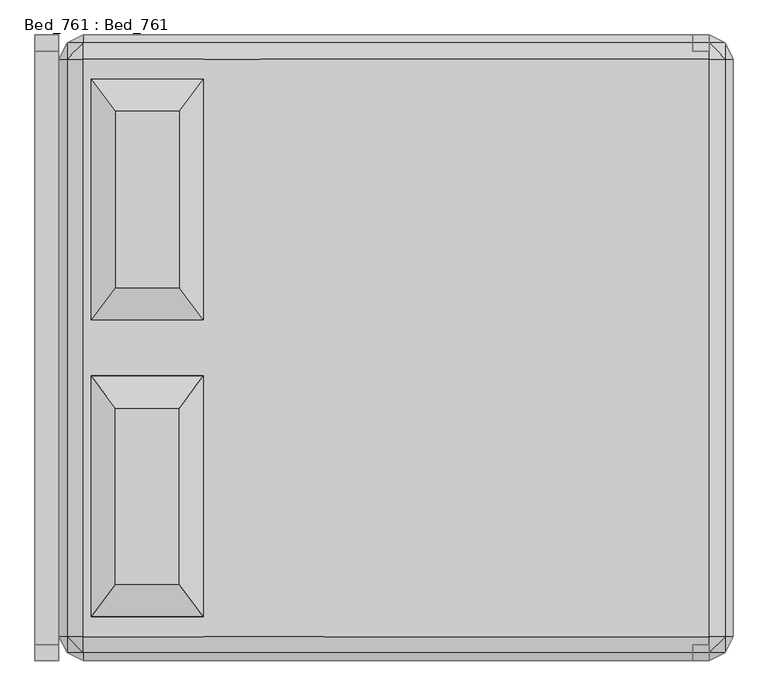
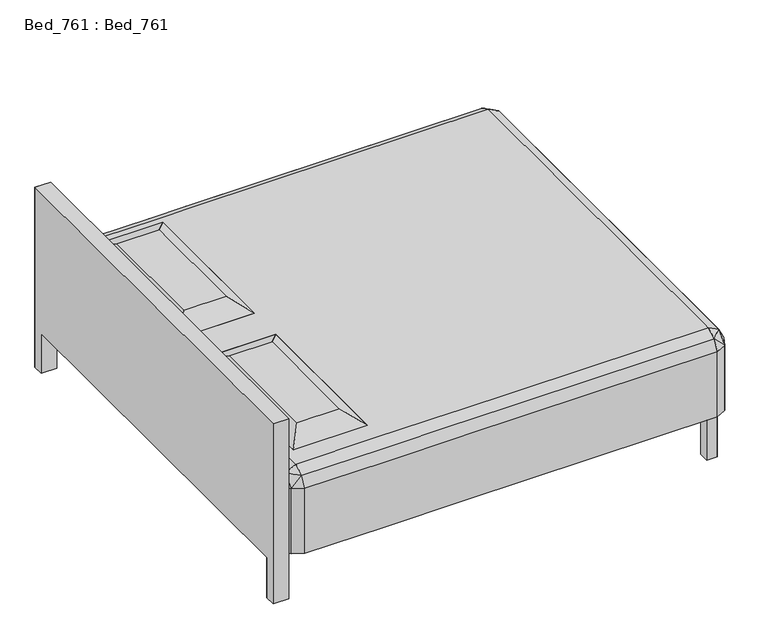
"""IFC4 building model written with IfcOpenShell, lengths in millimetres: furniture geometry, Bed_761 : Bed_761."""

from ifc_helpers import new_model, si_unit, origin, place, context, project, spatial, triangles, source, transform, mapped, element, save


def bed_761_bed_761_0b78a544(model_context):
    return source(origin(), model_context, "Body", "Tessellation", [
        triangles([(253.9999939, 825.4999758, 609.6), (253.9999939, 215.8997759, 609.6000727), (177.7999939, 139.7000121, 635.0001211), (177.7999939, 901.6999758, 634.9999758), (457.2, 825.4999758, 609.6), (533.4, 901.6999758, 634.9999758), (533.4, 139.7000121, 635.0001211), (457.2, 215.8997759, 609.6000727), (457.2, 800.099782, 685.8), (253.9999939, 800.099782, 685.8), (457.2, 241.299788, 685.8000727), (253.9999939, 241.299788, 685.8000727), (533.4, 1905.0, 609.599891), (152.4, 1905.0, 609.599891), (533.4, 76.2000091, 609.6000727), (152.4, 76.2000091, 609.6000727), (533.4, 25.4000121, 584.2000969), (152.4, 25.4000121, 584.2000969), (533.4, 7.8e-06, 533.400109), (152.4, 7.8e-06, 533.400109), (533.4, -2.11e-05, 203.2000969), (152.4, -2.11e-05, 203.2000969), (533.4, 1955.7999516, 584.1999152), (152.4, 1955.7999516, 584.1999152), (533.4, 1981.2, 533.399891), (152.4, 1981.2, 533.399891), (533.4, 1981.2, 203.1999152), (152.4, 1981.2, 203.1999152), (711.1999758, 1981.2, 203.1999152), (711.1999758, 1981.2, 533.399891), (711.1999758, 1955.7999516, 584.1999152), (711.1999758, 1905.0, 609.599891), (914.4, 25.4000121, 584.2000969), (914.4, 7.8e-06, 533.400109), (914.4, -2.11e-05, 203.2000969), (914.4, 76.2000091, 609.6000727), (2133.6, 1955.7999516, 584.1999152), (2133.6, 1905.0, 609.599891), (2159.0000484, 1930.4000484, 584.1999152), (2133.6, 1981.2, 533.399891), (2184.3999516, 1955.7999516, 533.399891), (2133.6, 1981.2, 203.1999152), (2184.3999516, 1955.7999516, 203.1999152), (2184.3999516, 1905.0, 584.1999152), (2209.8, 1905.0, 533.399891), (2209.8, 1905.0, 203.199788), (2184.3999516, 76.2000091, 584.2000969), (2133.6, 76.2000091, 609.6000727), (2159.0000484, 50.8000106, 584.2000969), (2209.8, 76.2000091, 533.400109), (2184.3999516, 25.4000098, 533.400109), (2209.8, 76.1999818, 203.1999879), (2184.3999516, 25.399978, 203.1999879), (2133.6, 25.4000121, 584.2000969), (2133.6, 7.8e-06, 533.400109), (2133.6, -2.11e-05, 203.2000969), (101.600003, 1905.0, 584.1999152), (126.999997, 1930.4000484, 584.1999152), (76.2, 1905.0, 533.399891), (101.600003, 1955.7999516, 533.399891), (76.2, 1905.0, 203.199788), (101.600003, 1955.7999516, 203.1999152), (126.999997, 50.8000106, 584.2000969), (101.600003, 25.4000098, 533.400109), (101.600003, 25.399978, 203.1999879), (101.600003, 76.2000091, 584.2000969), (76.2, 76.2000091, 533.400109), (76.2, 76.1999818, 203.1999879), (253.9999939, 1181.1, 685.8), (253.9999939, 1739.9000484, 685.7999273), (177.7999939, 1079.5000242, 634.9999758), (177.7999939, 1841.4999516, 634.9999031), (457.2, 1181.1, 685.8), (457.2, 1739.9000484, 685.7999273), (533.4, 1841.4999516, 634.9999031), (533.4, 1079.5000242, 634.9999758), (457.2, 1765.2999516, 609.5999637), (253.9999939, 1765.2999516, 609.5999637), (457.2, 1155.7000242, 609.6), (253.9999939, 1155.7000242, 609.6)], [[1, 2, 3], [3, 4, 1], [5, 6, 7], [7, 8, 5], [7, 3, 8], [2, 8, 3], [4, 6, 5], [5, 1, 4], [6, 4, 9], [10, 9, 4], [3, 7, 11], [11, 12, 3], [6, 9, 7], [11, 7, 9], [12, 11, 10], [9, 10, 11], [12, 10, 3], [4, 3, 10], [13, 14, 15], [16, 15, 14], [15, 16, 17], [18, 17, 16], [19, 20, 21], [22, 21, 20], [17, 18, 19], [20, 19, 18], [23, 24, 13], [14, 13, 24], [25, 26, 23], [24, 23, 26], [27, 28, 25], [26, 25, 28], [29, 27, 30], [25, 30, 27], [30, 25, 31], [23, 31, 25], [31, 23, 32], [13, 32, 23], [33, 17, 34], [19, 34, 17], [34, 19, 35], [21, 35, 19], [36, 15, 33], [17, 33, 15], [32, 13, 36], [15, 36, 13], [37, 38, 39], [40, 41, 42], [43, 42, 41], [40, 37, 41], [41, 37, 39], [44, 45, 41], [44, 41, 39], [41, 45, 46], [46, 43, 41], [38, 44, 39], [47, 48, 49], [50, 51, 52], [53, 52, 51], [50, 47, 51], [51, 47, 49], [54, 55, 51], [54, 51, 49], [51, 55, 56], [56, 53, 51], [48, 54, 49], [57, 14, 58], [59, 60, 61], [62, 61, 60], [59, 57, 60], [60, 57, 58], [24, 26, 60], [24, 60, 58], [60, 26, 28], [28, 62, 60], [14, 24, 58], [18, 16, 63], [20, 64, 22], [65, 22, 64], [20, 18, 64], [64, 18, 63], [66, 67, 64], [66, 64, 63], [64, 67, 68], [68, 65, 64], [16, 66, 63], [16, 14, 57], [57, 66, 16], [67, 59, 61], [61, 68, 67], [66, 57, 59], [59, 67, 66], [44, 47, 45], [50, 45, 47], [45, 50, 46], [52, 46, 50], [38, 48, 44], [47, 44, 48], [38, 32, 48], [36, 48, 32], [48, 36, 54], [33, 54, 36], [55, 34, 56], [35, 56, 34], [54, 33, 55], [34, 55, 33], [37, 31, 38], [32, 38, 31], [40, 30, 37], [31, 37, 30], [42, 29, 40], [30, 40, 29], [69, 70, 71], [72, 71, 70], [69, 73, 70], [74, 70, 73], [75, 74, 76], [73, 76, 74], [71, 76, 73], [73, 69, 71], [75, 72, 74], [70, 74, 72], [72, 75, 77], [77, 78, 72], [76, 71, 79], [80, 79, 71], [77, 75, 76], [76, 79, 77], [78, 80, 71], [71, 72, 78]], closed=False),
        triangles([(0.0, 1981.2, 914.3999273), (0.0, 0.0, 914.4000727), (76.2, 1981.2, 914.3999273), (76.2, 0.0, 914.4000727)], [[1, 2, 3], [4, 3, 2]], closed=False),
        triangles([(0.0, 4e-05, 914.4000727), (0.0, -2.22e-05, 203.2000969), (0.0, 1981.2, 914.3999273), (0.0, 1981.2, 203.1999152), (2082.8000484, 1930.4000484, 203.199788), (2082.8000484, 1930.4000484, -8.22e-05), (2082.8000484, 1981.2, 203.1999152), (2082.8000484, 1981.2, -8.66e-05), (2133.6, 1981.2, -8.66e-05), (2133.6, 1981.2, 203.1999152), (2133.6, 1930.4000484, 203.199788), (2133.6, 1930.4000484, -8.22e-05), (76.2, 1981.2, -8.66e-05), (76.2, 1981.2, 203.1999152), (76.2, 1930.4000484, 203.199788), (76.2, 1930.4000484, -8.22e-05), (0.0, 1930.4000484, 203.199788), (0.0, 1930.4000484, -8.22e-05), (0.0, 1981.2, -8.66e-05), (0.0, -4e-05, 8.66e-05), (0.0, 50.7999788, 203.1999879), (0.0, 50.7999606, 8.22e-05), (2133.6, 50.7999606, 8.22e-05), (2133.6, 50.7999788, 203.1999879), (2133.6, -2.22e-05, 203.2000969), (2133.6, -4e-05, 8.66e-05), (2082.8000484, -2.22e-05, 203.2000969), (2082.8000484, -4e-05, 8.66e-05), (2082.8000484, 50.7999788, 203.1999879), (2082.8000484, 50.7999606, 8.22e-05), (76.2, 50.7999606, 8.22e-05), (76.2, 50.7999788, 203.1999879), (76.2, -2.22e-05, 203.2000969), (76.2, -4e-05, 8.66e-05), (76.2, 1981.2, 914.3999273), (76.2, 4e-05, 914.4000727)], [[1, 2, 3], [4, 3, 2], [5, 6, 7], [8, 7, 6], [9, 10, 11], [11, 12, 9], [13, 14, 15], [15, 16, 13], [17, 18, 4], [19, 4, 18], [2, 20, 21], [22, 21, 20], [23, 24, 25], [25, 26, 23], [27, 28, 29], [30, 29, 28], [31, 32, 33], [33, 34, 31], [14, 35, 36], [36, 33, 14]], closed=False),
        triangles([(76.2, 4e-05, 914.4000727), (76.2, -2.22e-05, 203.2000969), (0.0, -2.22e-05, 203.2000969), (0.0, 4e-05, 914.4000727), (2133.6, 1930.4000484, 203.199788), (2133.6, 1930.4000484, -8.22e-05), (2082.8000484, 1930.4000484, -8.22e-05), (2082.8000484, 1930.4000484, 203.199788), (2082.8000484, 1981.2, -8.66e-05), (2082.8000484, 1981.2, 203.1999152), (2133.6, 1981.2, -8.66e-05), (2133.6, 1981.2, 203.1999152), (0.0, 1981.2, -8.66e-05), (0.0, 1981.2, 203.1999152), (76.2, 1981.2, -8.66e-05), (76.2, 1981.2, 203.1999152), (76.2, 1930.4000484, 203.199788), (76.2, 1930.4000484, -8.22e-05), (0.0, 1930.4000484, -8.22e-05), (0.0, 1930.4000484, 203.199788), (76.2, -4e-05, 8.66e-05), (0.0, -4e-05, 8.66e-05), (0.0, 50.7999606, 8.22e-05), (0.0, 50.7999788, 203.1999879), (76.2, 50.7999606, 8.22e-05), (76.2, 50.7999788, 203.1999879), (2082.8000484, 50.7999606, 8.22e-05), (2082.8000484, 50.7999788, 203.1999879), (2133.6, 50.7999606, 8.22e-05), (2133.6, 50.7999788, 203.1999879), (2133.6, -2.22e-05, 203.2000969), (2133.6, -4e-05, 8.66e-05), (2082.8000484, -4e-05, 8.66e-05), (2082.8000484, -2.22e-05, 203.2000969), (0.0, 1981.2, 914.3999273), (76.2, 1981.2, 914.3999273)], [[1, 2, 3], [3, 4, 1], [5, 6, 7], [7, 8, 5], [9, 10, 11], [12, 11, 10], [13, 14, 15], [16, 15, 14], [17, 18, 19], [19, 20, 17], [2, 21, 22], [22, 3, 2], [23, 24, 25], [26, 25, 24], [27, 28, 29], [30, 29, 28], [31, 32, 33], [33, 34, 31], [14, 35, 16], [36, 16, 35]], closed=False),
    ])


if __name__ == "__main__":
    model = new_model("IFC4")
    model_context = context("Model", 3, world=origin())
    ifc_project = project(units=[si_unit("LENGTHUNIT", "METRE", prefix="MILLI")], contexts=[model_context])
    site = spatial("IfcSite", under=ifc_project)
    building = spatial("IfcBuilding", under=site)
    placement = place(None, origin())
    bed_761_bed_761_shape = bed_761_bed_761_0b78a544(model_context)
    element("IfcFurniture", 1, ObjectType="Bed_761 : Bed_761", at=placement, inside=building, context=model_context, shape_type="MappedRepresentation", body=[
        mapped(bed_761_bed_761_shape, transform((0.0, 0.0, 0.0), x_axis=(1.0, 0.0, 0.0), y_axis=(0.0, 1.0, 0.0), z_axis=(0.0, 0.0, 1.0))),
    ])
    save(model, "model.ifc")
